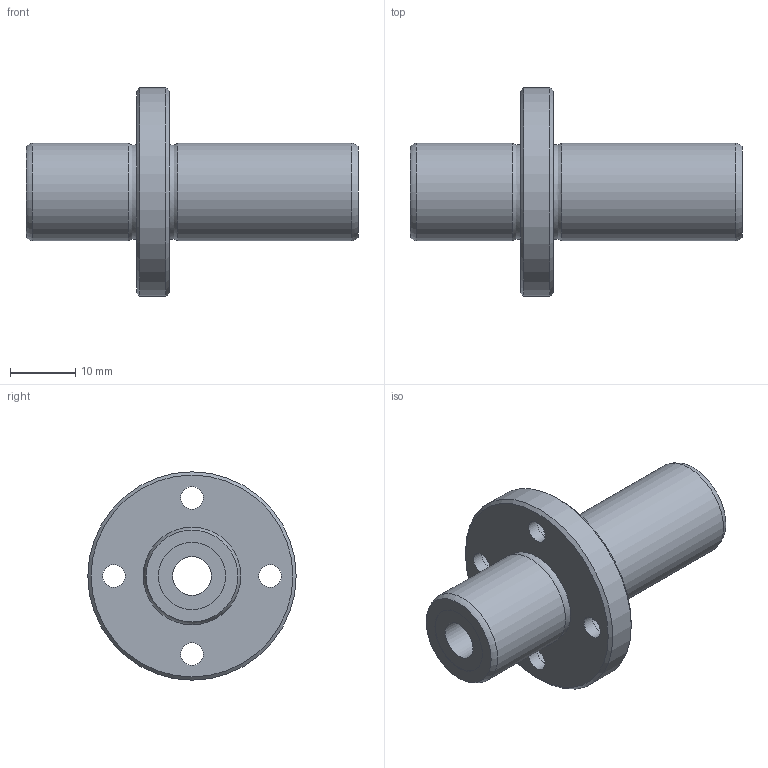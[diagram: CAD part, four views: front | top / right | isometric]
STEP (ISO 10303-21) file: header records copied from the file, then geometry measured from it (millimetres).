
FILE_DESCRIPTION((''),'2;1');
FILE_NAME('D:\製品 (図面)\カタログ用3D\リニアベアリング関連\STEP形式\LFLC\LFLC6.stp','2010-06-04T09:04:38',('Tsuchiya'),(''),'Autodesk Inventor 10','Autodesk Inventor 10','');
FILE_SCHEMA(('AUTOMOTIVE_DESIGN { 1 0 10303 214 1 1 1 1 }'));
Length unit declared in the file: millimetre
Products named in the file (1): LFLC6
Bounding box: 51 x 32 x 32 mm (x, y, z)
Volume: 10196.7 mm3; surface area: 5359.2 mm2
Topology: 1 solids, 1 shells, 30 faces, 54 edges, 34 vertices
Faces by surface type: bspline 14, cylinder 6, plane 6, cone 2, torus 2
Full cylindrical faces by diameter (mm): 6 x1, 10.3 x2, 15 x2, 32 x1
Entity records: 907 total; most frequent: CARTESIAN_POINT 371, DIRECTION 102, ORIENTED_EDGE 68, EDGE_LOOP 68, AXIS2_PLACEMENT_3D 51, FACE_BOUND 38, VERTEX_POINT 34, CIRCLE 34
